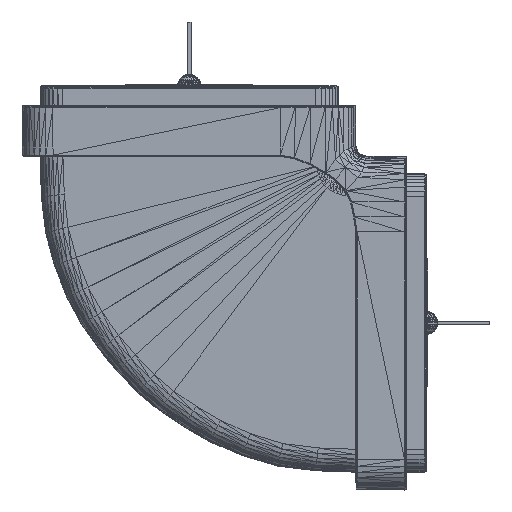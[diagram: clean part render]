
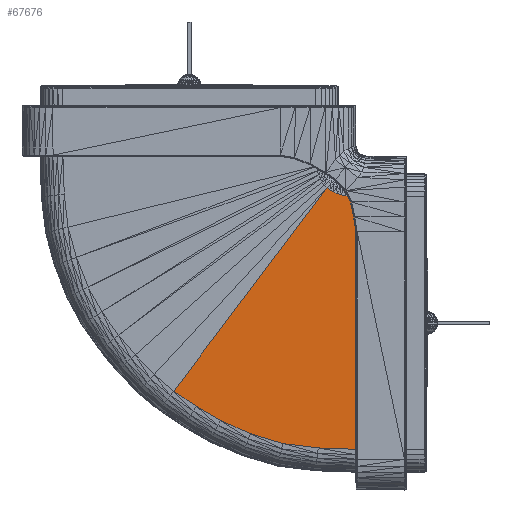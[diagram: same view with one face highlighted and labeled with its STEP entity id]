
A CAD part, front view. The second image highlights one B-rep face of the part: STEP entity #67676.
In plain terms, the highlighted planar face has unit normal (0, -1, 0).
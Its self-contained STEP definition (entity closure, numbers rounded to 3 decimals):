
#60437 = VERTEX_POINT('',#60438);
#60438 = CARTESIAN_POINT('',(86.812,5.,86.049));
#60445 = VERTEX_POINT('',#60446);
#60446 = CARTESIAN_POINT('',(43.135,5.,28.162));
#60452 = EDGE_CURVE('',#60437,#60445,#60453,.T.);
#60453 = LINE('',#60454,#60455);
#60454 = CARTESIAN_POINT('',(86.812,5.,86.049));
#60455 = VECTOR('',#60456,1.);
#60456 = DIRECTION('',(-0.602,0.,-0.798));
#60506 = VERTEX_POINT('',#60507);
#60507 = CARTESIAN_POINT('',(49.555,5.,23.823));
#60513 = EDGE_CURVE('',#60445,#60506,#60514,.T.);
#60514 = LINE('',#60515,#60516);
#60515 = CARTESIAN_POINT('',(43.135,5.,28.162));
#60516 = VECTOR('',#60517,1.);
#60517 = DIRECTION('',(0.829,0.,-0.56));
#60552 = VERTEX_POINT('',#60553);
#60553 = CARTESIAN_POINT('',(56.449,5.,19.799));
#60559 = EDGE_CURVE('',#60506,#60552,#60560,.T.);
#60560 = LINE('',#60561,#60562);
#60561 = CARTESIAN_POINT('',(49.555,5.,23.823));
#60562 = VECTOR('',#60563,1.);
#60563 = DIRECTION('',(0.864,0.,-0.504));
#60598 = VERTEX_POINT('',#60599);
#60599 = CARTESIAN_POINT('',(64.975,5.,16.042));
#60605 = EDGE_CURVE('',#60552,#60598,#60606,.T.);
#60606 = LINE('',#60607,#60608);
#60607 = CARTESIAN_POINT('',(56.449,5.,19.799));
#60608 = VECTOR('',#60609,1.);
#60609 = DIRECTION('',(0.915,0.,-0.403));
#60644 = VERTEX_POINT('',#60645);
#60645 = CARTESIAN_POINT('',(74.242,5.,13.235));
#60651 = EDGE_CURVE('',#60598,#60644,#60652,.T.);
#60652 = LINE('',#60653,#60654);
#60653 = CARTESIAN_POINT('',(64.975,5.,16.042));
#60654 = VECTOR('',#60655,1.);
#60655 = DIRECTION('',(0.957,0.,-0.29));
#60690 = VERTEX_POINT('',#60691);
#60691 = CARTESIAN_POINT('',(84.25,5.,11.967));
#60697 = EDGE_CURVE('',#60644,#60690,#60698,.T.);
#60698 = LINE('',#60699,#60700);
#60699 = CARTESIAN_POINT('',(74.242,5.,13.235));
#60700 = VECTOR('',#60701,1.);
#60701 = DIRECTION('',(0.992,0.,-0.126));
#60736 = VERTEX_POINT('',#60737);
#60737 = CARTESIAN_POINT('',(95.,5.,11.596));
#60743 = EDGE_CURVE('',#60690,#60736,#60744,.T.);
#60744 = LINE('',#60745,#60746);
#60745 = CARTESIAN_POINT('',(84.25,5.,11.967));
#60746 = VECTOR('',#60747,1.);
#60747 = DIRECTION('',(0.999,0.,-0.034));
#60894 = VERTEX_POINT('',#60895);
#60895 = CARTESIAN_POINT('',(87.676,5.,85.388));
#60922 = EDGE_CURVE('',#60894,#60437,#60923,.T.);
#60923 = LINE('',#60924,#60925);
#60924 = CARTESIAN_POINT('',(87.676,5.,85.388));
#60925 = VECTOR('',#60926,1.);
#60926 = DIRECTION('',(-0.794,0.,0.607));
#60938 = VERTEX_POINT('',#60939);
#60939 = CARTESIAN_POINT('',(88.643,5.,84.828));
#60961 = EDGE_CURVE('',#60938,#60894,#60962,.T.);
#60962 = LINE('',#60963,#60964);
#60963 = CARTESIAN_POINT('',(88.643,5.,84.828));
#60964 = VECTOR('',#60965,1.);
#60965 = DIRECTION('',(-0.865,0.,0.501));
#60977 = VERTEX_POINT('',#60978);
#60978 = CARTESIAN_POINT('',(89.711,5.,84.37));
#61000 = EDGE_CURVE('',#60977,#60938,#61001,.T.);
#61001 = LINE('',#61002,#61003);
#61002 = CARTESIAN_POINT('',(89.711,5.,84.37));
#61003 = VECTOR('',#61004,1.);
#61004 = DIRECTION('',(-0.919,0.,0.394));
#61016 = VERTEX_POINT('',#61017);
#61017 = CARTESIAN_POINT('',(90.881,5.,84.015));
#61039 = EDGE_CURVE('',#61016,#60977,#61040,.T.);
#61040 = LINE('',#61041,#61042);
#61041 = CARTESIAN_POINT('',(90.881,5.,84.015));
#61042 = VECTOR('',#61043,1.);
#61043 = DIRECTION('',(-0.957,0.,0.291));
#61055 = VERTEX_POINT('',#61056);
#61056 = CARTESIAN_POINT('',(92.152,5.,83.76));
#61078 = EDGE_CURVE('',#61055,#61016,#61079,.T.);
#61079 = LINE('',#61080,#61081);
#61080 = CARTESIAN_POINT('',(92.152,5.,83.76));
#61081 = VECTOR('',#61082,1.);
#61082 = DIRECTION('',(-0.981,0.,0.196));
#61094 = VERTEX_POINT('',#61095);
#61095 = CARTESIAN_POINT('',(93.525,5.,83.608));
#61117 = EDGE_CURVE('',#61094,#61055,#61118,.T.);
#61118 = LINE('',#61119,#61120);
#61119 = CARTESIAN_POINT('',(93.525,5.,83.608));
#61120 = VECTOR('',#61121,1.);
#61121 = DIRECTION('',(-0.994,0.,0.11));
#61133 = VERTEX_POINT('',#61134);
#61134 = CARTESIAN_POINT('',(95.,5.,83.557));
#61156 = EDGE_CURVE('',#61133,#61094,#61157,.T.);
#61157 = LINE('',#61158,#61159);
#61158 = CARTESIAN_POINT('',(95.,5.,83.557));
#61159 = VECTOR('',#61160,1.);
#61160 = DIRECTION('',(-0.999,0.,0.034));
#66014 = EDGE_CURVE('',#61133,#60736,#66015,.T.);
#66015 = LINE('',#66016,#66017);
#66016 = CARTESIAN_POINT('',(95.,5.,83.557));
#66017 = VECTOR('',#66018,1.);
#66018 = DIRECTION('',(0.,0.,-1.));
#67676 = ADVANCED_FACE('',(#67677),#67694,.T.);
#67677 = FACE_BOUND('',#67678,.T.);
#67678 = EDGE_LOOP('',(#67679,#67680,#67681,#67682,#67683,#67684,#67685,
    #67686,#67687,#67688,#67689,#67690,#67691,#67692,#67693));
#67679 = ORIENTED_EDGE('',*,*,#60922,.T.);
#67680 = ORIENTED_EDGE('',*,*,#60452,.T.);
#67681 = ORIENTED_EDGE('',*,*,#60513,.T.);
#67682 = ORIENTED_EDGE('',*,*,#60559,.T.);
#67683 = ORIENTED_EDGE('',*,*,#60605,.T.);
#67684 = ORIENTED_EDGE('',*,*,#60651,.T.);
#67685 = ORIENTED_EDGE('',*,*,#60697,.T.);
#67686 = ORIENTED_EDGE('',*,*,#60743,.T.);
#67687 = ORIENTED_EDGE('',*,*,#66014,.F.);
#67688 = ORIENTED_EDGE('',*,*,#61156,.T.);
#67689 = ORIENTED_EDGE('',*,*,#61117,.T.);
#67690 = ORIENTED_EDGE('',*,*,#61078,.T.);
#67691 = ORIENTED_EDGE('',*,*,#61039,.T.);
#67692 = ORIENTED_EDGE('',*,*,#61000,.T.);
#67693 = ORIENTED_EDGE('',*,*,#60961,.T.);
#67694 = PLANE('',#67695);
#67695 = AXIS2_PLACEMENT_3D('',#67696,#67697,#67698);
#67696 = CARTESIAN_POINT('',(77.237,5.,44.254));
#67697 = DIRECTION('',(0.,-1.,0.));
#67698 = DIRECTION('',(-1.,0.,0.));
